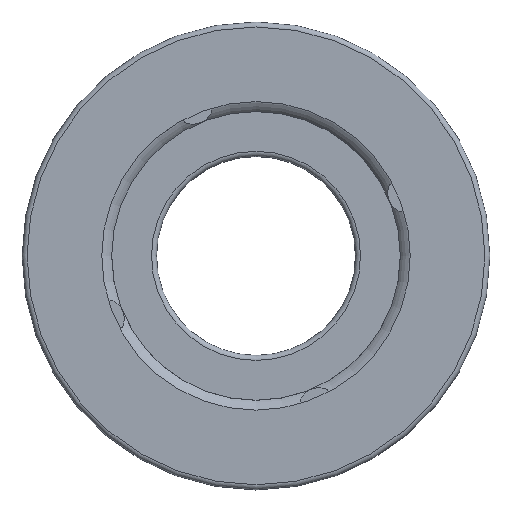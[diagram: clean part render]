
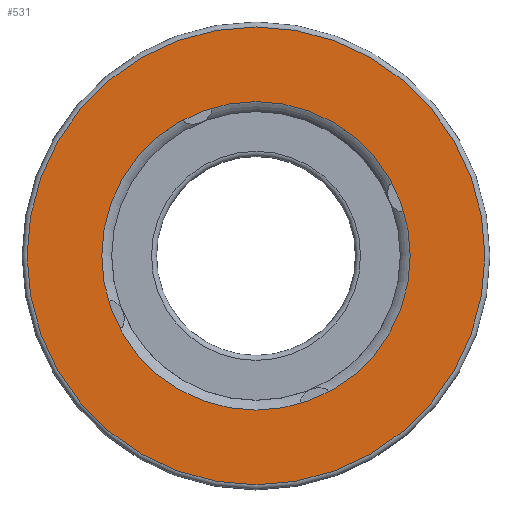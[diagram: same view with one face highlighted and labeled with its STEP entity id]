
A CAD part, top view. The second image highlights one B-rep face of the part: STEP entity #531.
In plain terms, the highlighted planar face has unit normal (0, 0, 1).
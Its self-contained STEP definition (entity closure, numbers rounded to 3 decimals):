
#487=PLANE('',#1299);
#531=ADVANCED_FACE('',(#619,#620),#487,.T.);
#619=FACE_BOUND('',#679,.T.);
#620=FACE_BOUND('',#680,.T.);
#679=EDGE_LOOP('',(#779));
#680=EDGE_LOOP('',(#780));
#779=ORIENTED_EDGE('',*,*,#1113,.T.);
#780=ORIENTED_EDGE('',*,*,#1114,.F.);
#1023=VERTEX_POINT('',#1749);
#1024=VERTEX_POINT('',#1751);
#1113=EDGE_CURVE('',#1023,#1023,#1235,.T.);
#1114=EDGE_CURVE('',#1024,#1024,#1236,.T.);
#1235=CIRCLE('',#1297,23.);
#1236=CIRCLE('',#1298,15.5);
#1297=AXIS2_PLACEMENT_3D('',#1748,#1434,#1435);
#1298=AXIS2_PLACEMENT_3D('',#1750,#1436,#1437);
#1299=AXIS2_PLACEMENT_3D('',#1752,#1438,#1439);
#1434=DIRECTION('',(0.,0.,1.));
#1435=DIRECTION('',(1.,0.,0.));
#1436=DIRECTION('',(0.,0.,1.));
#1437=DIRECTION('',(1.,0.,0.));
#1438=DIRECTION('',(0.,0.,1.));
#1439=DIRECTION('',(1.,0.,0.));
#1748=CARTESIAN_POINT('',(0.,0.,14.));
#1749=CARTESIAN_POINT('',(23.,0.,14.));
#1750=CARTESIAN_POINT('',(0.,0.,14.));
#1751=CARTESIAN_POINT('',(15.5,0.,14.));
#1752=CARTESIAN_POINT('',(0.,0.,14.));
